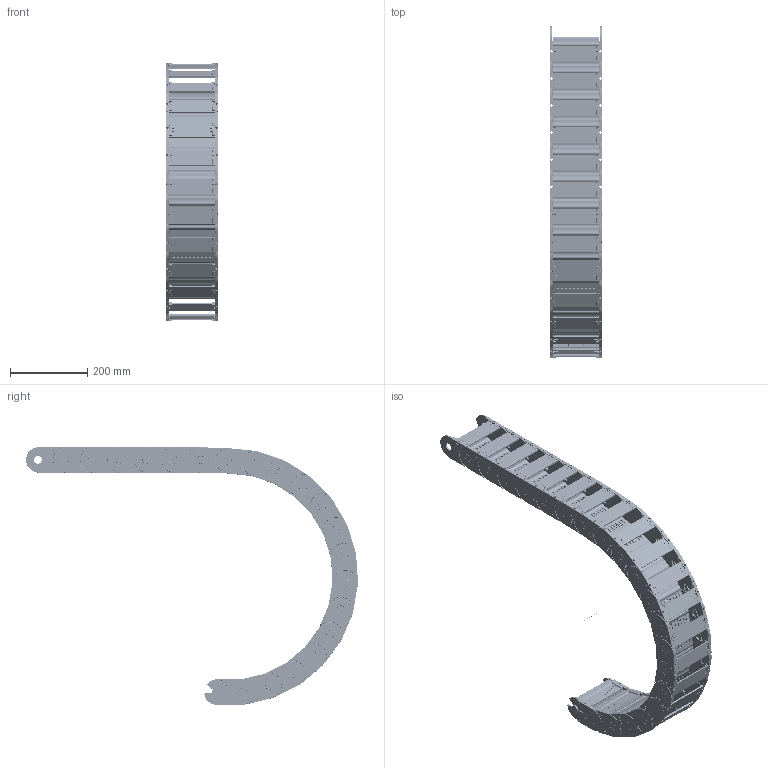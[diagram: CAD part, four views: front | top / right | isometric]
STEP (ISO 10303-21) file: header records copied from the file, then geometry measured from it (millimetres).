
FILE_DESCRIPTION((''),'2;1');
FILE_NAME('C:\Uebbing\PARAMETERKETTEN\KOLIBRI\Kol_65_135_1\Kol_65_135_1_R300.stp','2012-03-06T08:58:03',('Uebbing'),(''),'Autodesk Inventor 10','Autodesk Inventor 10','');
FILE_SCHEMA(('AUTOMOTIVE_DESIGN { 1 0 10303 214 1 1 1 1 }'));
Length unit declared in the file: millimetre
Products named in the file (5): KOLIBRI 65_135_1_PARAMETRISCH; Achse; Kol_65_135_1; Kol_65_135_5 Lasche; Kol_65_135_1 Klappsteg
Assembly tree (24 placements, depth 3):
  KOLIBRI 65_135_1_PARAMETRISCH
    Achse
    Kol_65_135_1  x21
      Kol_65_135_5 Lasche
      Kol_65_135_1 Klappsteg
Bounding box: 135 x 857.04 x 665 mm (x, y, z)
Volume: 2204059.7 mm3; surface area: 1472446.8 mm2
Topology: 43 solids, 43 shells, 12120 faces, 33163 edges, 21234 vertices
Faces by surface type: plane 5042, bspline 4536, cylinder 2038, torus 378, cone 84, sphere 42
Full cylindrical faces by diameter (mm): 1 x1, 2.514 x21, 4 x63, 4.414 x21, 6 x21, 20 x42
Entity records: 19790 total; most frequent: CARTESIAN_POINT 5483, ORIENTED_EDGE 3092, DIRECTION 2660, EDGE_CURVE 1546, VECTOR 1126, LINE 1126, VERTEX_POINT 1002, AXIS2_PLACEMENT_3D 767
